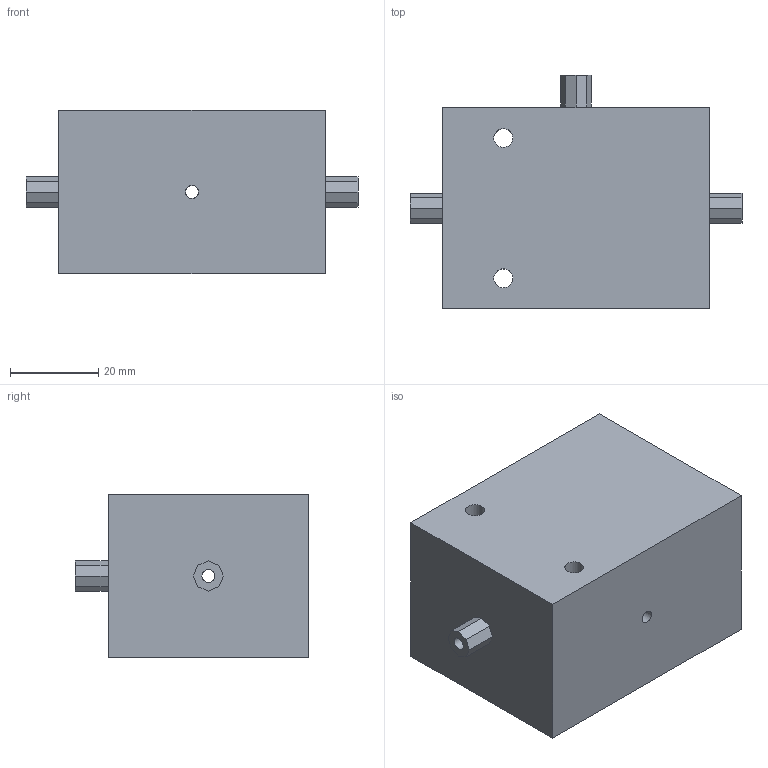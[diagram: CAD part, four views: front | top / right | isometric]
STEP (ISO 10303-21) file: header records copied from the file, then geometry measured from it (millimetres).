
FILE_DESCRIPTION(('Mechanical CAD reference from nasji.com'),'2;1');
FILE_NAME('NASJI.step','',(''),(''),'','NASJI distribution','');
FILE_SCHEMA(('AUTOMOTIVE_DESIGN { 1 0 10303 214 1 1 1 1 }'));
Length unit declared in the file: millimetre
Products named in the file (1): Open CASCADE STEP translator 7.8 167
Bounding box: 75.23 x 52.8 x 37.1 mm (x, y, z)
Volume: 100603.6 mm3; surface area: 15852.4 mm2
Topology: 1 solids, 1 shells, 41 faces, 110 edges, 72 vertices
Faces by surface type: plane 33, cylinder 8
Full cylindrical faces by diameter (mm): 2.9 x4, 4.3 x2
Entity records: 2855 total; most frequent: CARTESIAN_POINT 622, DIRECTION 409, LINE 288, VECTOR 288, ORIENTED_EDGE 220, PCURVE 220, DEFINITIONAL_REPRESENTATION 220, EDGE_CURVE 110
